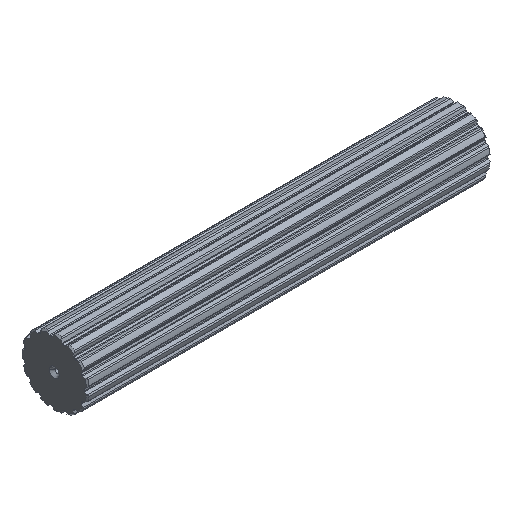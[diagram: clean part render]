
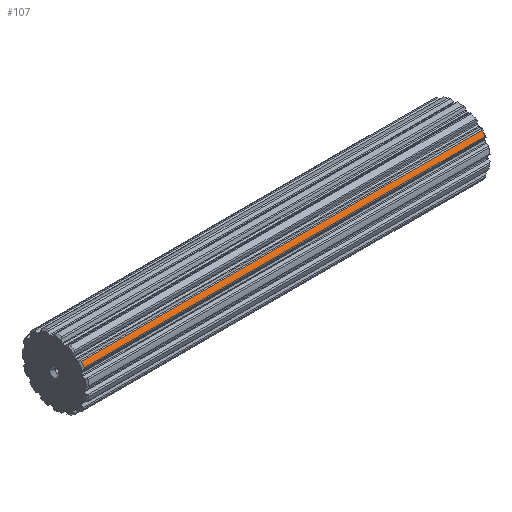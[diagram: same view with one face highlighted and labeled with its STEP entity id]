
A CAD part, isometric view. The second image highlights one B-rep face of the part: STEP entity #107.
In plain terms, the highlighted cylindrical face has radius 11.685 mm (diameter 23.37 mm), a partial arc.
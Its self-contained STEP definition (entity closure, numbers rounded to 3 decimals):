
#107=ADVANCED_FACE('',(#306),#307,.T.);
#306=FACE_OUTER_BOUND('',#640,.T.);
#307=CYLINDRICAL_SURFACE('',#641,11.685);
#640=EDGE_LOOP('',(#1163,#1164,#1165,#1166));
#641=AXIS2_PLACEMENT_3D('',#1167,#1168,#1169);
#1163=ORIENTED_EDGE('',*,*,#2483,.T.);
#1164=ORIENTED_EDGE('',*,*,#2499,.T.);
#1165=ORIENTED_EDGE('',*,*,#2500,.T.);
#1166=ORIENTED_EDGE('',*,*,#2501,.T.);
#1167=CARTESIAN_POINT('',(70.0,0.0,0.0));
#1168=DIRECTION('',(1.0,0.0,-0.0));
#1169=DIRECTION('',(0.0,0.588,0.809));
#2483=EDGE_CURVE('',#3057,#3066,#3068,.T.);
#2499=EDGE_CURVE('',#3066,#3096,#3097,.T.);
#2500=EDGE_CURVE('',#3096,#3098,#3099,.T.);
#2501=EDGE_CURVE('',#3098,#3057,#3100,.T.);
#3057=VERTEX_POINT('',#4301);
#3066=VERTEX_POINT('',#4335);
#3068=CIRCLE('',#4344,11.685);
#3096=VERTEX_POINT('',#4426);
#3097=LINE('',#4427,#4428);
#3098=VERTEX_POINT('',#4429);
#3099=CIRCLE('',#4430,11.685);
#3100=LINE('',#4431,#4432);
#4301=CARTESIAN_POINT('',(0.5,-8.922,7.546));
#4335=CARTESIAN_POINT('',(0.5,-9.934,6.153));
#4344=AXIS2_PLACEMENT_3D('',#5741,#5742,#5743);
#4426=CARTESIAN_POINT('',(139.5,-9.934,6.153));
#4427=CARTESIAN_POINT('',(70.0,-9.934,6.153));
#4428=VECTOR('',#5759,1.0);
#4429=CARTESIAN_POINT('',(139.5,-8.922,7.546));
#4430=AXIS2_PLACEMENT_3D('',#5760,#5761,#5762);
#4431=CARTESIAN_POINT('',(70.0,-8.922,7.546));
#4432=VECTOR('',#5763,1.0);
#5741=CARTESIAN_POINT('',(0.5,0.0,0.0));
#5742=DIRECTION('',(1.0,0.0,0.));
#5743=DIRECTION('',(0.,0.588,0.809));
#5759=DIRECTION('',(1.0,0.0,0.0));
#5760=CARTESIAN_POINT('',(139.5,0.0,0.0));
#5761=DIRECTION('',(-1.0,0.0,0.0));
#5762=DIRECTION('',(0.0,0.588,0.809));
#5763=DIRECTION('',(-1.0,0.0,0.0));
